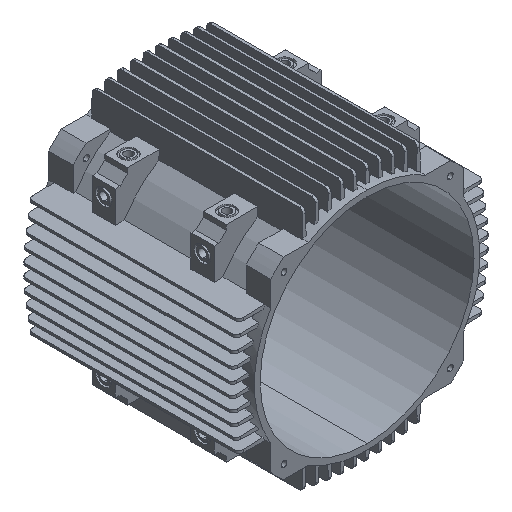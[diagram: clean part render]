
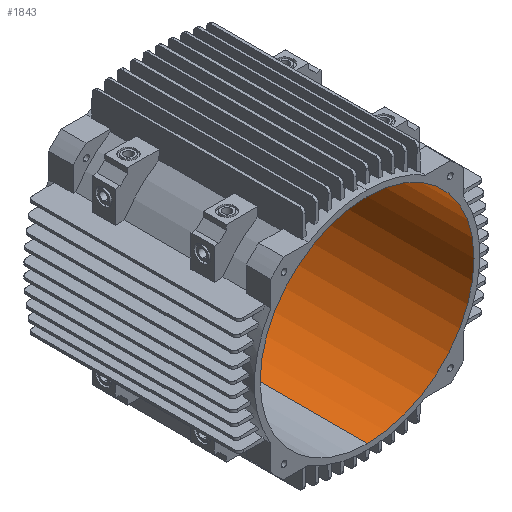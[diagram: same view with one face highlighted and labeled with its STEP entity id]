
A CAD part, isometric view. The second image highlights one B-rep face of the part: STEP entity #1843.
In plain terms, the highlighted cylindrical face has radius 130 mm (diameter 260 mm), a partial arc.
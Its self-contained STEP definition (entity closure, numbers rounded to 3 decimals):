
#80 = EDGE_CURVE ( 'NONE', #18164, #21313, #12669, .T. ) ;
#527 = CARTESIAN_POINT ( 'NONE',  ( 0., 66., -130. ) ) ;
#554 = DIRECTION ( 'NONE',  ( 0., 0., 1. ) ) ;
#1843 = ADVANCED_FACE ( 'NONE', ( #17323 ), #17966, .F. ) ;
#3126 = CARTESIAN_POINT ( 'NONE',  ( 0., -135., -130. ) ) ;
#3682 = CARTESIAN_POINT ( 'NONE',  ( 0., 135., -130. ) ) ;
#4967 = DIRECTION ( 'NONE',  ( 0., 1., 0. ) ) ;
#5402 = AXIS2_PLACEMENT_3D ( 'NONE', #7557, #11751, #25836 ) ;
#6938 = ORIENTED_EDGE ( 'NONE', *, *, #11452, .F. ) ;
#7259 = VECTOR ( 'NONE', #13502, 1000. ) ;
#7557 = CARTESIAN_POINT ( 'NONE',  ( 0., 135., 0. ) ) ;
#7925 = ORIENTED_EDGE ( 'NONE', *, *, #80, .T. ) ;
#8330 = LINE ( 'NONE', #527, #18156 ) ;
#8486 = EDGE_CURVE ( 'NONE', #24703, #10270, #8330, .T. ) ;
#8818 = AXIS2_PLACEMENT_3D ( 'NONE', #20715, #10699, #554 ) ;
#9007 = AXIS2_PLACEMENT_3D ( 'NONE', #20845, #16675, #22809 ) ;
#10067 = CIRCLE ( 'NONE', #5402, 130. ) ;
#10270 = VERTEX_POINT ( 'NONE', #3682 ) ;
#10699 = DIRECTION ( 'NONE',  ( 0., 1., 0. ) ) ;
#11348 = ORIENTED_EDGE ( 'NONE', *, *, #17899, .T. ) ;
#11452 = EDGE_CURVE ( 'NONE', #18164, #24703, #26302, .T. ) ;
#11751 = DIRECTION ( 'NONE',  ( 0., 1., 0. ) ) ;
#12445 = CARTESIAN_POINT ( 'NONE',  ( 0., -135., 130. ) ) ;
#12669 = LINE ( 'NONE', #15815, #7259 ) ;
#13502 = DIRECTION ( 'NONE',  ( 0., 1., 0. ) ) ;
#14701 = CARTESIAN_POINT ( 'NONE',  ( 0., 135., 130. ) ) ;
#15815 = CARTESIAN_POINT ( 'NONE',  ( 0., 66., 130. ) ) ;
#16490 = EDGE_LOOP ( 'NONE', ( #25908, #6938, #7925, #11348 ) ) ;
#16675 = DIRECTION ( 'NONE',  ( 0., 1., 0. ) ) ;
#17323 = FACE_OUTER_BOUND ( 'NONE', #16490, .T. ) ;
#17899 = EDGE_CURVE ( 'NONE', #21313, #10270, #10067, .T. ) ;
#17966 = CYLINDRICAL_SURFACE ( 'NONE', #8818, 130. ) ;
#18156 = VECTOR ( 'NONE', #4967, 1000. ) ;
#18164 = VERTEX_POINT ( 'NONE', #12445 ) ;
#20715 = CARTESIAN_POINT ( 'NONE',  ( 0., 66., 0. ) ) ;
#20845 = CARTESIAN_POINT ( 'NONE',  ( 0., -135., 0. ) ) ;
#21313 = VERTEX_POINT ( 'NONE', #14701 ) ;
#22809 = DIRECTION ( 'NONE',  ( 0., 0., 1. ) ) ;
#24703 = VERTEX_POINT ( 'NONE', #3126 ) ;
#25836 = DIRECTION ( 'NONE',  ( 0., 0., 1. ) ) ;
#25908 = ORIENTED_EDGE ( 'NONE', *, *, #8486, .F. ) ;
#26302 = CIRCLE ( 'NONE', #9007, 130. ) ;
